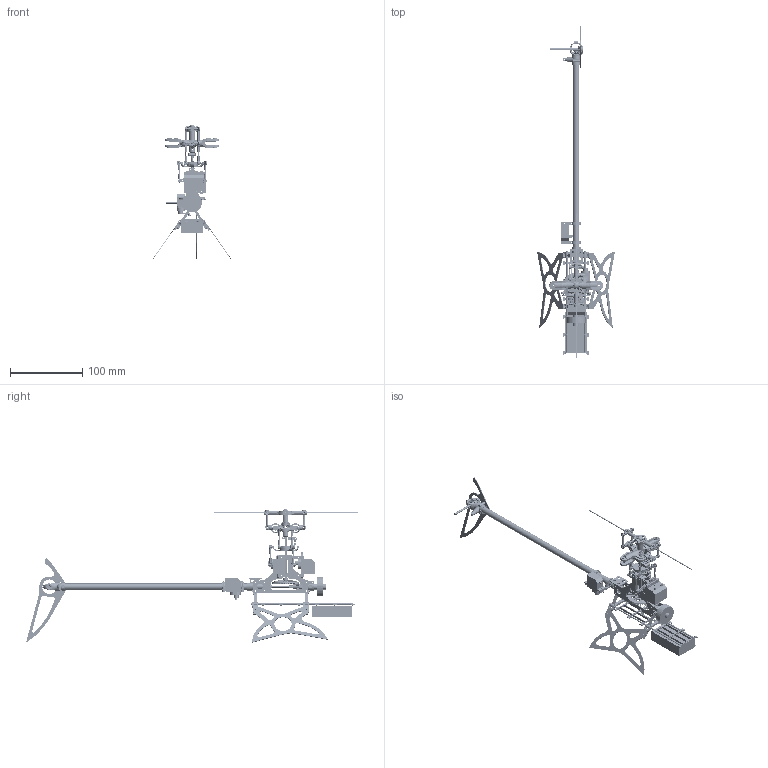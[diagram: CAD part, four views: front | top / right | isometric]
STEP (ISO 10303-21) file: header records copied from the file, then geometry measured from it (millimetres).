
FILE_DESCRIPTION(('CATIA V5 STEP Exchange'),'2;1');
FILE_NAME('C:\Documents and Settings\JD\My Documents\RC Helicopter\Janosik\Open_Source\JDH-main_1.stp','2009-12-04T07:44:01+00:00',('none'),('none'),'CATIA Version 5 Release 16 (IN-10)','CATIA V5 STEP AP203','none');
FILE_SCHEMA(('CONFIG_CONTROL_DESIGN'));
Products named in the file (8): JDH-main_1; JDH-1; Compy_swash; JDH-uv_assembly; JDH-uv_assembly_1; JDH-links_swash; JDH-anti_rotation_link; CV4-swash_link
Assembly tree (119 placements, depth 4):
  JDH-main_1
    #56  x2
    #2228
    #5946
    #9824
    #10617
    #14522
    #18554
    #18866
    #19227
    #49867
    #58588
    #58692
    #58861
    #59220  x4
    #60220
    #61336  x2
    #62709  x4
    #63401  x2
    #63518
    #68538
    #73509
    #73709  x3
    #74631
    #86115
    #97531  x2
    JDH-1
      #103914
      #106623
      #108554  x2
      #113293
      #113410
      Compy_swash
        #113790
        #115717
        #116562  x8
      JDH-uv_assembly
        #116905
        #118019  x4
        #121495
        #116562  x4
      JDH-uv_assembly_1
        #116905
        #118019  x4
        #121495
        #116562  x4
      #126473  x3
      #127740  x2
      #116562  x4
      #73709  x4
      JDH-links_swash  x4
        #129232
        #129961
      JDH-anti_rotation_link
        #130125
        #130772
        #132507
        #133100
    #133846
    #116562  x4
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Bounding box: 107.98 x 461.03 x 185.57 mm (x, y, z)
Volume: 99435.2 mm3; surface area: 111824.7 mm2
Topology: 242 solids, 245 shells, 5854 faces, 15472 edges, 9304 vertices
Faces by surface type: cylinder 1937, plane 1769, sphere 929, bspline 712, cone 312, torus 181, revolution 10, extrusion 4
Entity records: 145407 total; most frequent: CARTESIAN_POINT 74259, ORIENTED_EDGE 17350, DIRECTION 9438, EDGE_CURVE 8675, VERTEX_POINT 5646, AXIS2_PLACEMENT_3D 4411, EDGE_LOOP 3561, VECTOR 3274
